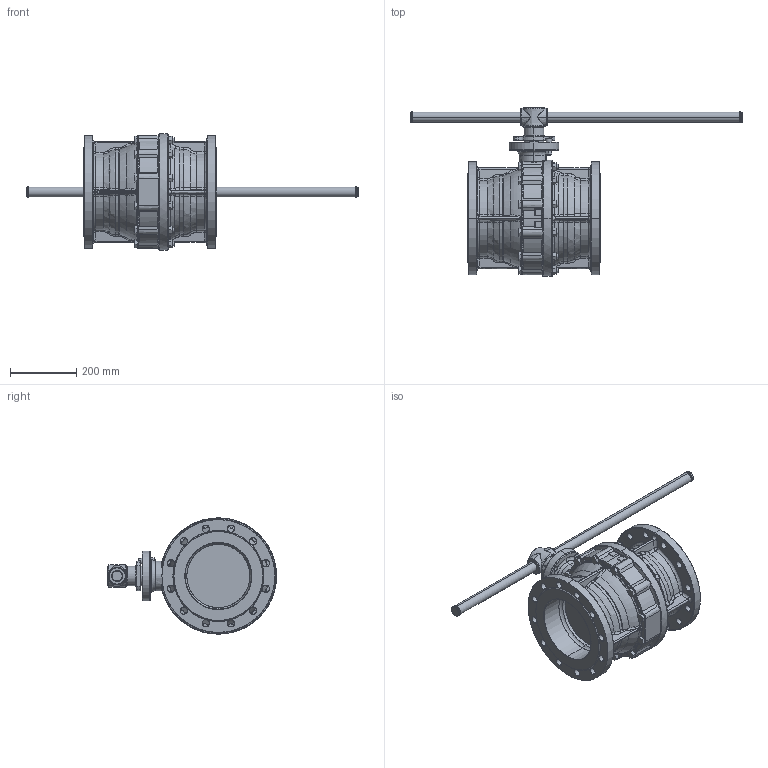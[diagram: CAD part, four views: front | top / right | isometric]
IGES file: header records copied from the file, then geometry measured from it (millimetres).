
Start section: SolidWorks IGES file using analytic representation for surfaces
Global section: file name: C:\Documents and Settings\Luca.Saino\Desktop\B2 IGES+DWG\IGES\B2.000I200L16CN.IGS; native system: SolidWorks 2008; preprocessor: SolidWorks 2008; author: Luca.Saino; date: 080617.112122; units: millimetre
Bounding box: 1000 x 509 x 350 mm (x, y, z)
Surface area: 1151161.9 mm2 (no closed solid volume)
Topology: 0 solids, 0 shells, 1425 faces, 21372 edges, 21354 vertices
Faces by surface type: bspline 777, revolution 648
